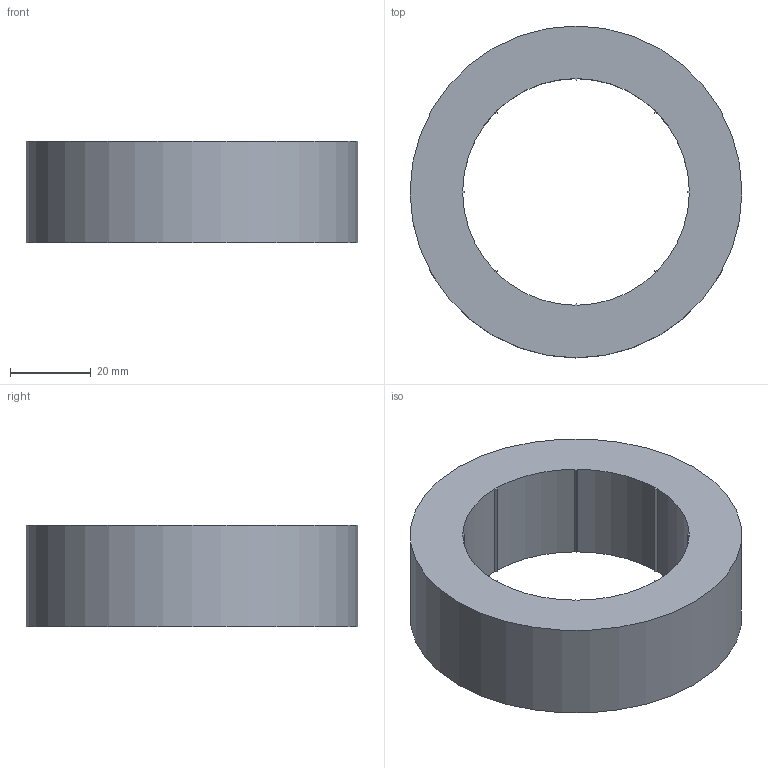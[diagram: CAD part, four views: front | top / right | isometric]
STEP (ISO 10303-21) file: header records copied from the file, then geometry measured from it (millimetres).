
FILE_DESCRIPTION( ( '' ), ' ' );
FILE_NAME( '/vol/tmp/translate-13211134564888766693/5b98ea6ac28f8611114bc848.step', '2018-09-12T10:28:59', ( '' ), ( '' ), ' ', ' ', ' ' );
FILE_SCHEMA( ( 'AUTOMOTIVE_DESIGN { 1 0 10303 214 1 1 1 1 }' ) );
Length unit declared in the file: metre
Products named in the file (1): Part 1
Bounding box: 82 x 82 x 25 mm (x, y, z)
Volume: 70477 mm3; surface area: 16550.9 mm2
Topology: 1 solids, 1 shells, 27 faces, 75 edges, 50 vertices
Faces by surface type: plane 18, cylinder 9
Full cylindrical faces by diameter (mm): 82 x1
Entity records: 1098 total; most frequent: CARTESIAN_POINT 152, DIRECTION 148, ORIENTED_EDGE 148, EDGE_CURVE 74, LINE 56, VECTOR 56, VERTEX_POINT 50, AXIS2_PLACEMENT_3D 46
